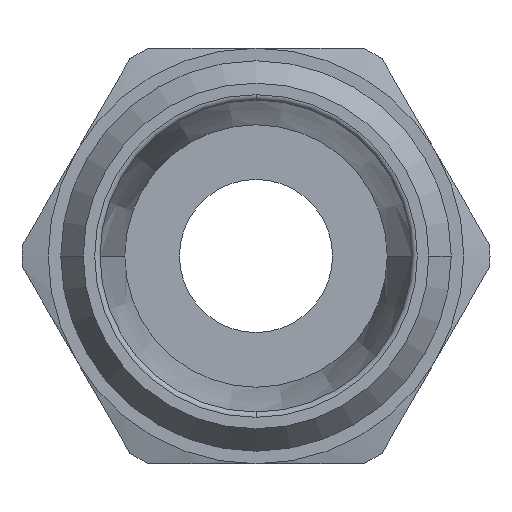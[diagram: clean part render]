
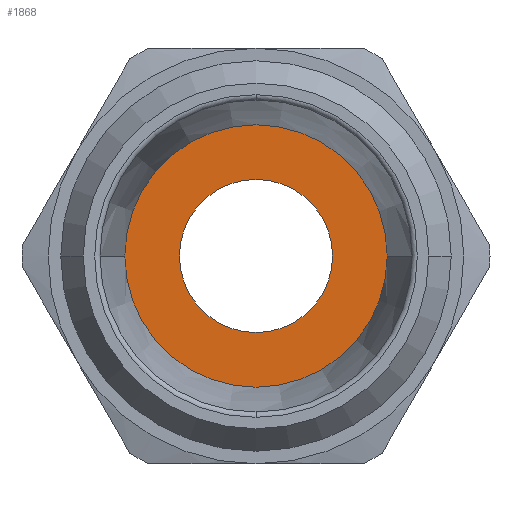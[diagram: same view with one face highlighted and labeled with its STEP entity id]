
A CAD part, left-side view. The second image highlights one B-rep face of the part: STEP entity #1868.
In plain terms, the highlighted planar face has unit normal (-1, 0, 0) as drawn and (0, 0, 1) by its records, which use the part's own axes.
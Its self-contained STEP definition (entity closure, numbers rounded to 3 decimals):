
#767=CARTESIAN_POINT('',(0.,-6.,6.85));
#768=VERTEX_POINT('',#767);
#784=CARTESIAN_POINT('',(0.,6.,6.85));
#785=VERTEX_POINT('',#784);
#792=CARTESIAN_POINT('',(0.,0.,6.85));
#793=DIRECTION('',(0.0,0.0,-1.0));
#794=DIRECTION('',(0.0,-1.0,0.0));
#795=AXIS2_PLACEMENT_3D('',#792,#793,#794);
#796=CIRCLE('',#795,6.0);
#797=EDGE_CURVE('',#785,#768,#796,.T.);
#1256=CARTESIAN_POINT('',(0.,3.5,6.85));
#1257=VERTEX_POINT('',#1256);
#1266=CARTESIAN_POINT('',(0.,-3.5,6.85));
#1267=VERTEX_POINT('',#1266);
#1268=CARTESIAN_POINT('',(0.,0.,6.85));
#1269=DIRECTION('',(0.0,0.0,-1.0));
#1270=DIRECTION('',(0.0,1.0,0.0));
#1271=AXIS2_PLACEMENT_3D('',#1268,#1269,#1270);
#1272=CIRCLE('',#1271,3.5);
#1273=EDGE_CURVE('',#1267,#1257,#1272,.T.);
#1555=CARTESIAN_POINT('',(0.,0.,6.85));
#1556=DIRECTION('',(0.0,0.0,-1.0));
#1557=DIRECTION('',(0.0,1.0,0.0));
#1558=AXIS2_PLACEMENT_3D('',#1555,#1556,#1557);
#1559=CIRCLE('',#1558,3.5);
#1560=EDGE_CURVE('',#1257,#1267,#1559,.T.);
#1849=CARTESIAN_POINT('',(0.,-3.,6.85));
#1850=DIRECTION('',(0.0,0.0,1.0));
#1851=DIRECTION('',(-1.0,0.0,0.0));
#1852=AXIS2_PLACEMENT_3D('',#1849,#1850,#1851);
#1853=PLANE('',#1852);
#1854=CARTESIAN_POINT('',(0.,0.,6.85));
#1855=DIRECTION('',(0.0,0.0,-1.0));
#1856=DIRECTION('',(0.0,-1.0,0.0));
#1857=AXIS2_PLACEMENT_3D('',#1854,#1855,#1856);
#1858=CIRCLE('',#1857,6.0);
#1859=EDGE_CURVE('',#768,#785,#1858,.T.);
#1860=ORIENTED_EDGE('',*,*,#1859,.F.);
#1861=ORIENTED_EDGE('',*,*,#797,.F.);
#1862=EDGE_LOOP('',(#1860,#1861));
#1863=FACE_OUTER_BOUND('',#1862,.T.);
#1864=ORIENTED_EDGE('',*,*,#1273,.T.);
#1865=ORIENTED_EDGE('',*,*,#1560,.T.);
#1866=EDGE_LOOP('',(#1864,#1865));
#1867=FACE_BOUND('',#1866,.T.);
#1868=ADVANCED_FACE('',(#1863,#1867),#1853,.T.);
